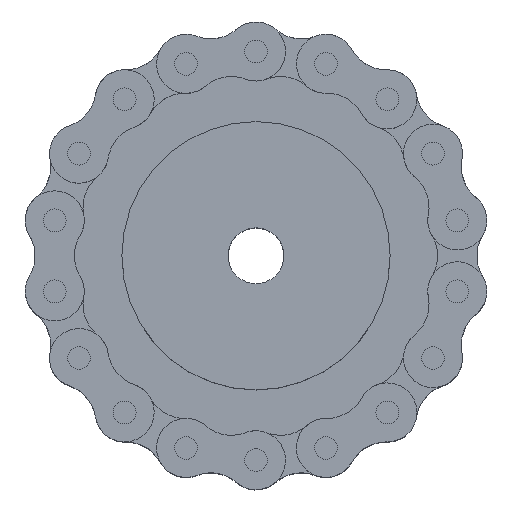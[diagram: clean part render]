
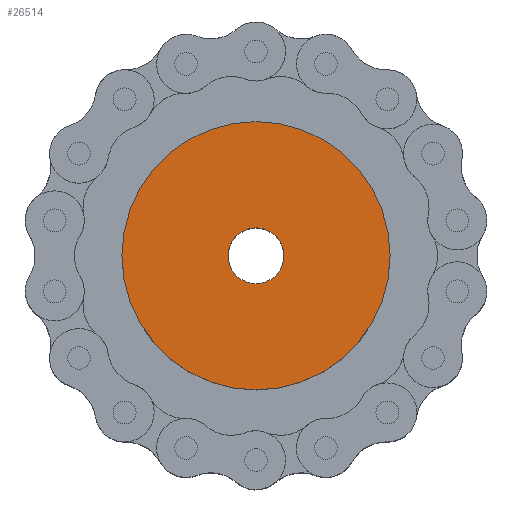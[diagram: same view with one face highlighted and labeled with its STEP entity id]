
A CAD part, top view. The second image highlights one B-rep face of the part: STEP entity #26514.
In plain terms, the highlighted planar face has unit normal (0, 0, 1).
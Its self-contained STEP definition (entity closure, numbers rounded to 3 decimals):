
#7878=CARTESIAN_POINT('',(0.,0.,58.5));
#7879=DIRECTION('',(0.,0.,1.));
#7880=DIRECTION('',(1.,0.,0.));
#7881=AXIS2_PLACEMENT_3D('',#7878,#7879,#7880);
#7883=CARTESIAN_POINT('',(0.,0.,58.5));
#7884=DIRECTION('',(0.,0.,1.));
#7885=DIRECTION('',(-1.,0.,0.));
#7886=AXIS2_PLACEMENT_3D('',#7883,#7884,#7885);
#7888=CARTESIAN_POINT('',(0.,0.,58.5));
#7889=DIRECTION('',(0.,0.,-1.));
#7890=DIRECTION('',(1.,0.,0.));
#7891=AXIS2_PLACEMENT_3D('',#7888,#7889,#7890);
#7893=CARTESIAN_POINT('',(0.,0.,58.5));
#7894=DIRECTION('',(0.,0.,-1.));
#7895=DIRECTION('',(-1.,0.,0.));
#7896=AXIS2_PLACEMENT_3D('',#7893,#7894,#7895);
#12170=CARTESIAN_POINT('',(60.,0.,58.5));
#12172=VERTEX_POINT('',#12170);
#12174=CARTESIAN_POINT('',(-60.,0.,58.5));
#12176=VERTEX_POINT('',#12174);
#12178=CARTESIAN_POINT('',(12.5,0.,58.5));
#12180=VERTEX_POINT('',#12178);
#12182=CARTESIAN_POINT('',(-12.5,0.,58.5));
#12184=VERTEX_POINT('',#12182);
#26498=CARTESIAN_POINT('',(0.,12.5,58.5));
#26499=DIRECTION('',(0.,0.,1.));
#26500=DIRECTION('',(1.,0.,0.));
#26501=AXIS2_PLACEMENT_3D('',#26498,#26499,#26500);
#26502=PLANE('',#26501);
#26504=ORIENTED_EDGE('',*,*,#26503,.F.);
#26505=ORIENTED_EDGE('',*,*,#26481,.F.);
#26506=EDGE_LOOP('',(#26504,#26505));
#26507=FACE_OUTER_BOUND('',#26506,.F.);
#26509=ORIENTED_EDGE('',*,*,#26508,.F.);
#26511=ORIENTED_EDGE('',*,*,#26510,.F.);
#26512=EDGE_LOOP('',(#26509,#26511));
#26513=FACE_BOUND('',#26512,.F.);
#26514=ADVANCED_FACE('',(#26507,#26513),#26502,.T.);
#7882=CIRCLE('',#7881,60.);
#7887=CIRCLE('',#7886,60.);
#7892=CIRCLE('',#7891,12.5);
#7897=CIRCLE('',#7896,12.5);
#26481=EDGE_CURVE('',#12176,#12172,#7887,.T.);
#26503=EDGE_CURVE('',#12172,#12176,#7882,.T.);
#26508=EDGE_CURVE('',#12180,#12184,#7892,.T.);
#26510=EDGE_CURVE('',#12184,#12180,#7897,.T.);
